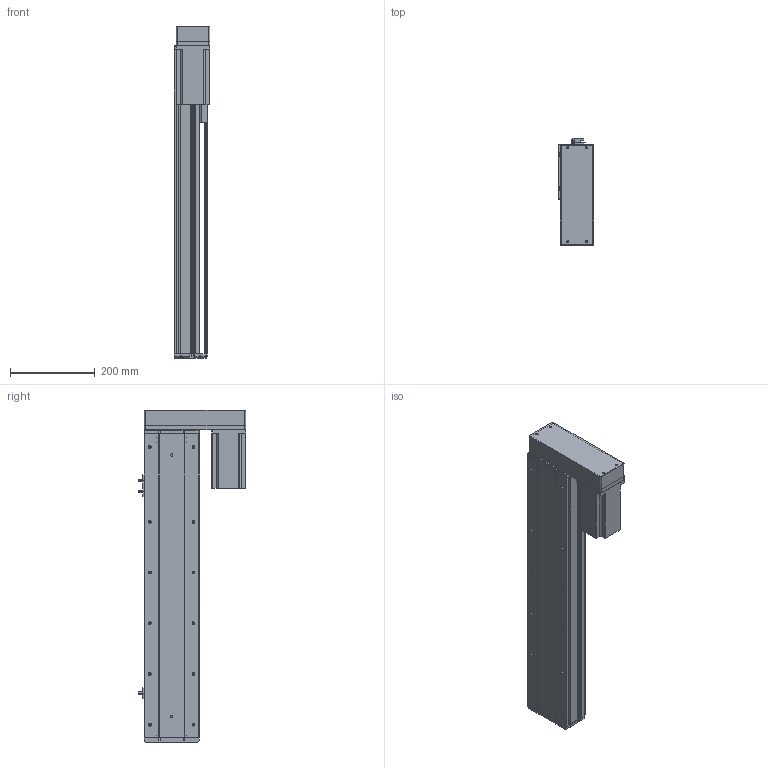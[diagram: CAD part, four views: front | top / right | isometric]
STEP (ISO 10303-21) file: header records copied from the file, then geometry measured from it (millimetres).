
FILE_DESCRIPTION (( 'STEP AP214' ), '1' );
FILE_NAME ('KSD130-P2010-S500-MR-CM.STEP', '2019-09-17T07:42:19', ( '微软用户' ), ( '微软中国' ), 'SwSTEP 2.0', 'SolidWorks 2014', '' );
FILE_SCHEMA (( 'AUTOMOTIVE_DESIGN' ));
Length unit declared in the file: millimetre
Products named in the file (11): 130宽底板半封闭丝杠-500行程; KSD130-P2010-S500-MR-CM; 130宽模组保护罩左右折; 台达ECMA－C20807AS伺服电机; 130宽模组马达安装板连板左右折丝杆; U倰嫖萇EEㄜSX672; 覜茼え100遵圉猾敕; 130宽盖板半封闭丝杠-500行程; 130宽滚珠丝杆安装板半封闭-20丝杠; 130宽马达安装板半封闭; 130遵傷裔圉猾敕
Assembly tree (12 placements, depth 2):
  KSD130-P2010-S500-MR-CM
    130宽底板半封闭丝杠-500行程
    130遵傷裔圉猾敕
    130宽马达安装板半封闭
    130宽滚珠丝杆安装板半封闭-20丝杠
    130宽盖板半封闭丝杠-500行程
    覜茼え100遵圉猾敕
    U倰嫖萇EEㄜSX672  x3
    130宽模组马达安装板连板左右折丝杆
    台达ECMA－C20807AS伺服电机
    130宽模组保护罩左右折
Bounding box: 85 x 253.7 x 785.5 mm (x, y, z)
Volume: 3443076.6 mm3; surface area: 914167 mm2
Topology: 13 solids, 13 shells, 1274 faces, 3571 edges, 2283 vertices
Faces by surface type: cylinder 593, plane 550, cone 131
Entity records: 40756 total; most frequent: CARTESIAN_POINT 7468, DIRECTION 6065, ORIENTED_EDGE 5846, EDGE_CURVE 2923, AXIS2_PLACEMENT_3D 2184, VERTEX_POINT 1907, LINE 1697, VECTOR 1697
